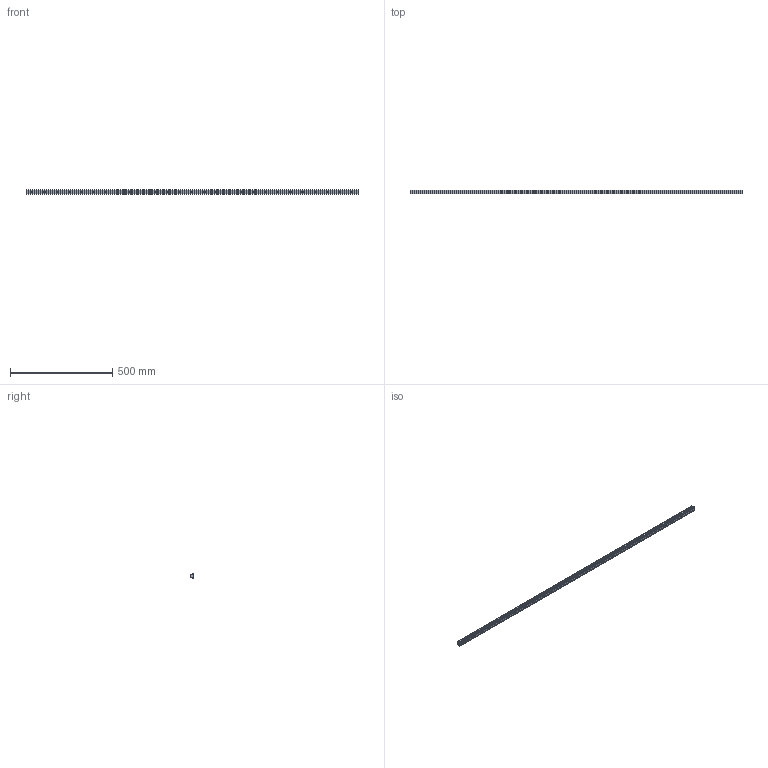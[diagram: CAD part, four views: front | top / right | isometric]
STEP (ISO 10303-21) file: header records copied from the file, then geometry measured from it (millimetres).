
FILE_DESCRIPTION (( 'STEP AP203' ), '1' );
FILE_NAME ('L1018.20R-1620.step', '2023-08-06T09:09:17', ( '' ), ( '' ), 'SwSTEP 2.0', 'SolidWorks 2019', '' );
FILE_SCHEMA (( 'CONFIG_CONTROL_DESIGN' ));
Length unit declared in the file: millimetre
Products named in the file (1): L1018.20R-1620
Bounding box: 1620 x 19.3 x 20 mm (x, y, z)
Volume: 513747.8 mm3; surface area: 137362.5 mm2
Topology: 1 solids, 1 shells, 272 faces, 621 edges, 351 vertices
Faces by surface type: cylinder 111, cone 108, plane 53
Entity records: 7316 total; most frequent: DIRECTION 1389, CARTESIAN_POINT 1191, ORIENTED_EDGE 1134, EDGE_CURVE 567, AXIS2_PLACEMENT_3D 549, VERTEX_POINT 351, EDGE_LOOP 326, LINE 291
